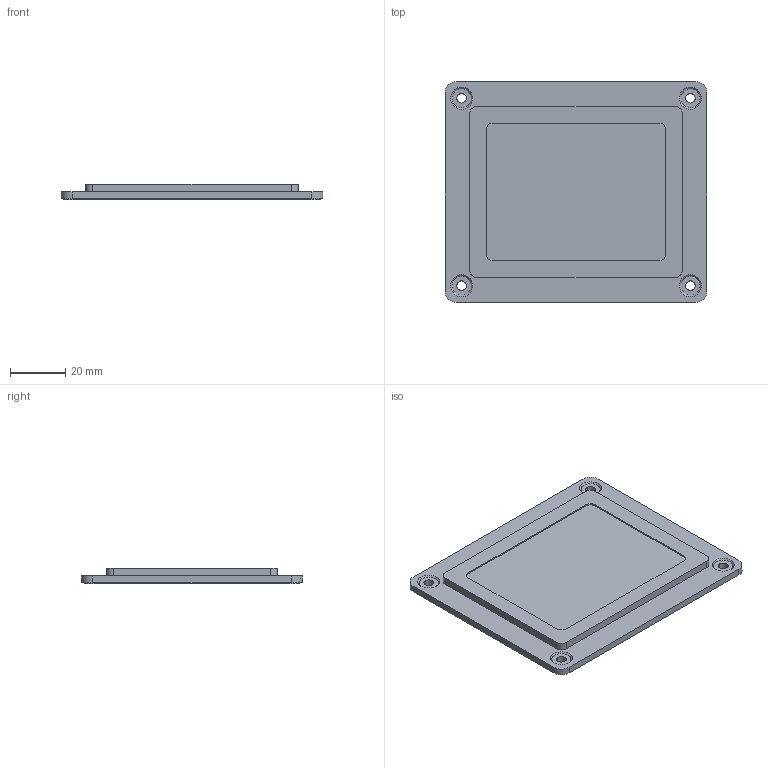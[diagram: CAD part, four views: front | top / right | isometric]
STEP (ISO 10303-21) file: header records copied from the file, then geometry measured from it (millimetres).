
FILE_DESCRIPTION((' '),'1');
FILE_NAME('00BYK04Y02.stp','2007-01-17 T',(' '),(' '),'STEP Interface v1.0 by CT CoreTechnologie','3D_Evolution v1.0 by CT CoreTechnologie',' ');
FILE_SCHEMA(('CONFIG_CONTROL_DESIGN'));
Length unit declared in the file: millimetre
Products named in the file (1): 00BYK04Y02
Bounding box: 95 x 80 x 5.8 mm (x, y, z)
Volume: 25663.6 mm3; surface area: 19057.1 mm2
Topology: 1 solids, 1 shells, 71 faces, 180 edges, 120 vertices
Faces by surface type: plane 35, cylinder 28, cone 8
Entity records: 2765 total; most frequent: DIRECTION 396, CARTESIAN_POINT 372, ORIENTED_EDGE 360, EDGE_CURVE 180, AXIS2_PLACEMENT_3D 144, VERTEX_POINT 120, VECTOR 108, LINE 108
